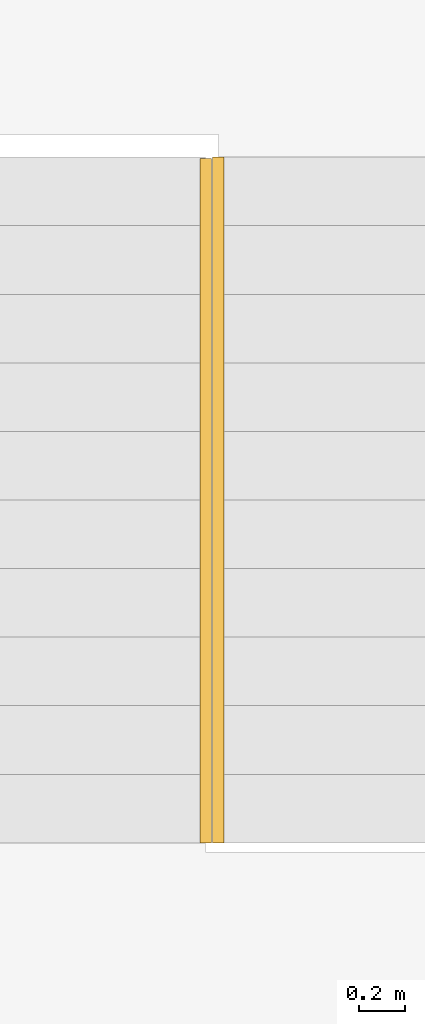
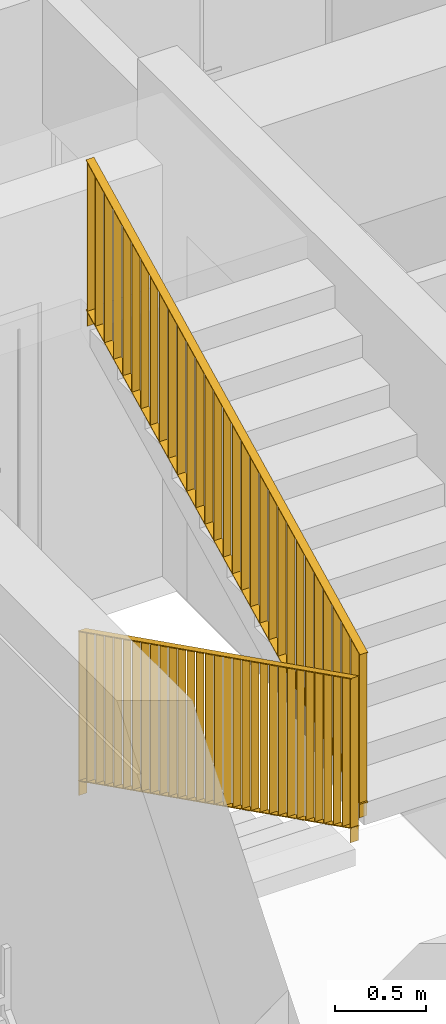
# One storey, part 19 of 48: 2 railings, 2 elements without a shape of their own.
"""IFC2X3 building model written with IfcOpenShell, lengths in millimetres."""

from ifc_helpers import new_model, entity, si_unit, converted_unit, derived_unit, direction, frame, origin, place, context, subcontext, project, spatial, polyline, outline, extrude, material, element, aggregate, save


model = new_model("IFC2X3")

# Units and contexts
model_context = context("Model", 3, precision=0.01, world=origin(), true_north=direction((6.12303176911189e-17, 1.0)))
body_context = subcontext(model_context, "Body", "Model", "MODEL_VIEW")
ifc_project = project(units=[si_unit("LENGTHUNIT", "METRE", prefix="MILLI"), si_unit("AREAUNIT", "SQUARE_METRE"), si_unit("VOLUMEUNIT", "CUBIC_METRE"), converted_unit("PLANEANGLEUNIT", "DEGREE", entity("IfcRatioMeasure", 0.0174532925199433), si_unit("PLANEANGLEUNIT", "RADIAN"), dimensions=[0, 0, 0, 0, 0, 0, 0]), si_unit("MASSUNIT", "GRAM", prefix="KILO"), derived_unit("MASSDENSITYUNIT", [(si_unit("MASSUNIT", "GRAM", prefix="KILO"), 1), (si_unit("LENGTHUNIT", "METRE"), -3)]), si_unit("TIMEUNIT", "SECOND"), si_unit("FREQUENCYUNIT", "HERTZ"), si_unit("THERMODYNAMICTEMPERATUREUNIT", "DEGREE_CELSIUS"), derived_unit("THERMALTRANSMITTANCEUNIT", [(si_unit("MASSUNIT", "GRAM", prefix="KILO"), 1), (si_unit("THERMODYNAMICTEMPERATUREUNIT", "KELVIN"), -1), (si_unit("TIMEUNIT", "SECOND"), -3)]), derived_unit("VOLUMETRICFLOWRATEUNIT", [(si_unit("LENGTHUNIT", "METRE"), 3), (si_unit("TIMEUNIT", "SECOND"), -1)]), si_unit("ELECTRICCURRENTUNIT", "AMPERE"), si_unit("ELECTRICVOLTAGEUNIT", "VOLT"), si_unit("POWERUNIT", "WATT"), si_unit("FORCEUNIT", "NEWTON", prefix="KILO"), si_unit("ILLUMINANCEUNIT", "LUX"), si_unit("LUMINOUSFLUXUNIT", "LUMEN"), si_unit("LUMINOUSINTENSITYUNIT", "CANDELA"), derived_unit("USERDEFINED", [(si_unit("MASSUNIT", "GRAM", prefix="KILO"), -1), (si_unit("LENGTHUNIT", "METRE"), -2), (si_unit("TIMEUNIT", "SECOND"), 3), (si_unit("LUMINOUSFLUXUNIT", "LUMEN"), 1)]), derived_unit("LINEARVELOCITYUNIT", [(si_unit("LENGTHUNIT", "METRE"), 1), (si_unit("TIMEUNIT", "SECOND"), -1)]), si_unit("PRESSUREUNIT", "PASCAL"), derived_unit("USERDEFINED", [(si_unit("LENGTHUNIT", "METRE"), -2), (si_unit("MASSUNIT", "GRAM", prefix="KILO"), 1), (si_unit("TIMEUNIT", "SECOND"), -2)]), derived_unit("LINEARFORCEUNIT", [(si_unit("MASSUNIT", "GRAM", prefix="KILO"), 1), (si_unit("LENGTHUNIT", "METRE"), 1), (si_unit("TIMEUNIT", "SECOND"), -2), (si_unit("LENGTHUNIT", "METRE"), -1)]), derived_unit("PLANARFORCEUNIT", [(si_unit("MASSUNIT", "GRAM", prefix="KILO"), 1), (si_unit("LENGTHUNIT", "METRE"), 1), (si_unit("TIMEUNIT", "SECOND"), -2), (si_unit("LENGTHUNIT", "METRE"), -2)])], contexts=[model_context])

# Site, building, storey
site_placement = place(None, origin())
site = spatial("IfcSite", under=ifc_project, at=site_placement, Name="Default", CompositionType="ELEMENT")
building_placement = place(site_placement, origin())
building = spatial("IfcBuilding", under=site, at=building_placement, Name="SMA ARH", CompositionType="ELEMENT")
storey_placement = place(building_placement, frame((0.0, 0.0, 3300.0)))
storey = spatial("IfcBuildingStorey", under=building, at=storey_placement, Name="2 Korrus", CompositionType="ELEMENT", Elevation=3299.99999999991)

# Stair, railing
stair_1_placement = place(storey_placement, origin())
stair_1 = element("IfcStair", 1, at=stair_1_placement, inside=storey, Name="Cast-In-Place Stair:Stair", ObjectType="Cast-In-Place Stair:Cast-In-Place Stair", ShapeType="STRAIGHT_RUN_STAIR")
ifc_material = material(Name="Metal - Stainless Steel,Polished")
railing_1_placement = place(stair_1_placement, origin())
railing_1 = element("IfcRailing", 2, at=railing_1_placement, material=ifc_material, Name="Railing:1000mm_sisearh railing offsetiga", ObjectType="Railing:1000mm_sisearh railing offsetiga", PredefinedType="NOTDEFINED", context=body_context, shape_type="SweptSolid", body=[
    extrude(outline(polyline([(-498.454915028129, -2.49999999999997), (495.95491502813, -2.49999999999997), (498.45491502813, 2.49999999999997), (-495.954915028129, 2.49999999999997), (-498.454915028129, -2.49999999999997)])), frame((32160.0, 4550.0, 657.204915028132), z_axis=(1.0, 0.0, 0.0), x_axis=(0.0, 0.0, 1.0)), (0.0, 0.0, 1.0), 49.9999999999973),
    extrude(outline(polyline([(-498.454915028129, -2.49999999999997), (495.954915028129, -2.49999999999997), (498.45491502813, 2.49999999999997), (-495.954915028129, 2.49999999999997), (-498.454915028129, -2.49999999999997)])), frame((32160.0, 4450.0, 707.204915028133), z_axis=(1.0, 0.0, 0.0), x_axis=(0.0, 0.0, 1.0)), (0.0, 0.0, 1.0), 49.9999999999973),
    extrude(outline(polyline([(-498.454915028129, -2.49999999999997), (495.954915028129, -2.49999999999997), (498.45491502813, 2.49999999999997), (-495.954915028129, 2.49999999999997), (-498.454915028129, -2.49999999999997)])), frame((32160.0, 4350.0, 757.204915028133), z_axis=(1.0, 0.0, 0.0), x_axis=(0.0, 0.0, 1.0)), (0.0, 0.0, 1.0), 49.9999999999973),
    extrude(outline(polyline([(-498.454915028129, -2.49999999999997), (495.954915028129, -2.49999999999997), (498.45491502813, 2.49999999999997), (-495.954915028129, 2.49999999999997), (-498.454915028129, -2.49999999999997)])), frame((32160.0, 4250.0, 807.204915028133), z_axis=(1.0, 0.0, 0.0), x_axis=(0.0, 0.0, 1.0)), (0.0, 0.0, 1.0), 49.9999999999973),
    extrude(outline(polyline([(-498.45491502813, -2.49999999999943), (495.954915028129, -2.49999999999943), (498.454915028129, 2.50000000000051), (-495.95491502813, 2.50000000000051), (-498.45491502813, -2.49999999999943)])), frame((32160.0, 4150.0, 857.204915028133), z_axis=(1.0, 0.0, 0.0), x_axis=(0.0, 0.0, 1.0)), (0.0, 0.0, 1.0), 49.9999999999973),
    extrude(outline(polyline([(-498.45491502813, -2.49999999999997), (495.954915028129, -2.49999999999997), (498.454915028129, 2.49999999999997), (-495.95491502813, 2.49999999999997), (-498.45491502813, -2.49999999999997)])), frame((32160.0, 4050.0, 907.204915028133), z_axis=(1.0, 0.0, 0.0), x_axis=(0.0, 0.0, 1.0)), (0.0, 0.0, 1.0), 49.9999999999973),
    extrude(outline(polyline([(-498.454915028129, -2.49999999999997), (495.954915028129, -2.49999999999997), (498.45491502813, 2.49999999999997), (-495.954915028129, 2.49999999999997), (-498.454915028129, -2.49999999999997)])), frame((32160.0, 3950.0, 957.204915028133), z_axis=(1.0, 0.0, 0.0), x_axis=(0.0, 0.0, 1.0)), (0.0, 0.0, 1.0), 49.9999999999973),
    extrude(outline(polyline([(-498.454915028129, -2.50000000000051), (495.954915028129, -2.50000000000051), (498.45491502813, 2.49999999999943), (-495.954915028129, 2.49999999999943), (-498.454915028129, -2.50000000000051)])), frame((32160.0, 3850.0, 1007.20491502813), z_axis=(1.0, 0.0, 0.0), x_axis=(0.0, 0.0, 1.0)), (0.0, 0.0, 1.0), 49.9999999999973),
    extrude(outline(polyline([(-498.454915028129, -2.49999999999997), (495.95491502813, -2.49999999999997), (498.45491502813, 2.49999999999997), (-495.954915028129, 2.49999999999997), (-498.454915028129, -2.49999999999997)])), frame((32160.0, 3750.0, 1057.20491502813), z_axis=(1.0, 0.0, 0.0), x_axis=(0.0, 0.0, 1.0)), (0.0, 0.0, 1.0), 49.9999999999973),
    extrude(outline(polyline([(-498.454915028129, -2.49999999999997), (495.954915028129, -2.49999999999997), (498.45491502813, 2.49999999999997), (-495.954915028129, 2.49999999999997), (-498.454915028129, -2.49999999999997)])), frame((32160.0, 3650.0, 1107.20491502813), z_axis=(1.0, 0.0, 0.0), x_axis=(0.0, 0.0, 1.0)), (0.0, 0.0, 1.0), 49.9999999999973),
    extrude(outline(polyline([(-498.454915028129, -2.49999999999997), (495.954915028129, -2.49999999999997), (498.45491502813, 2.49999999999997), (-495.954915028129, 2.49999999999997), (-498.454915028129, -2.49999999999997)])), frame((32160.0, 3550.0, 1157.20491502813), z_axis=(1.0, 0.0, 0.0), x_axis=(0.0, 0.0, 1.0)), (0.0, 0.0, 1.0), 49.9999999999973),
    extrude(outline(polyline([(-498.454915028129, -2.49999999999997), (495.95491502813, -2.49999999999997), (498.45491502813, 2.49999999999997), (-495.954915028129, 2.49999999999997), (-498.454915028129, -2.49999999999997)])), frame((32160.0, 3450.0, 1207.20491502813), z_axis=(1.0, 0.0, 0.0), x_axis=(0.0, 0.0, 1.0)), (0.0, 0.0, 1.0), 49.9999999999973),
    extrude(outline(polyline([(-498.45491502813, -2.49999999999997), (495.954915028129, -2.49999999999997), (498.454915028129, 2.49999999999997), (-495.95491502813, 2.49999999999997), (-498.45491502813, -2.49999999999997)])), frame((32160.0, 3350.0, 1257.20491502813), z_axis=(1.0, 0.0, 0.0), x_axis=(0.0, 0.0, 1.0)), (0.0, 0.0, 1.0), 49.9999999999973),
    extrude(outline(polyline([(-498.454915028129, -2.49999999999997), (495.954915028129, -2.49999999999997), (498.45491502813, 2.49999999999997), (-495.954915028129, 2.49999999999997), (-498.454915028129, -2.49999999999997)])), frame((32160.0, 3250.0, 1307.20491502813), z_axis=(1.0, 0.0, 0.0), x_axis=(0.0, 0.0, 1.0)), (0.0, 0.0, 1.0), 49.9999999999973),
    extrude(outline(polyline([(-498.454915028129, -2.49999999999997), (495.954915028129, -2.49999999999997), (498.45491502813, 2.49999999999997), (-495.954915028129, 2.49999999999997), (-498.454915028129, -2.49999999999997)])), frame((32160.0, 3150.0, 1357.20491502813), z_axis=(1.0, 0.0, 0.0), x_axis=(0.0, 0.0, 1.0)), (0.0, 0.0, 1.0), 49.9999999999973),
    extrude(outline(polyline([(-498.45491502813, -2.49999999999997), (495.954915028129, -2.49999999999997), (498.454915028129, 2.49999999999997), (-495.95491502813, 2.49999999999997), (-498.45491502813, -2.49999999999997)])), frame((32160.0, 3050.0, 1407.20491502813), z_axis=(1.0, 0.0, 0.0), x_axis=(0.0, 0.0, 1.0)), (0.0, 0.0, 1.0), 49.9999999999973),
    extrude(outline(polyline([(-498.454915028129, -2.49999999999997), (495.95491502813, -2.49999999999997), (498.45491502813, 2.49999999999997), (-495.954915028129, 2.49999999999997), (-498.454915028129, -2.49999999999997)])), frame((32160.0, 2950.0, 1457.20491502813), z_axis=(1.0, 0.0, 0.0), x_axis=(0.0, 0.0, 1.0)), (0.0, 0.0, 1.0), 49.9999999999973),
    extrude(outline(polyline([(-498.454915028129, -2.49999999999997), (495.954915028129, -2.49999999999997), (498.45491502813, 2.49999999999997), (-495.954915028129, 2.49999999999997), (-498.454915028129, -2.49999999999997)])), frame((32160.0, 2850.0, 1507.20491502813), z_axis=(1.0, 0.0, 0.0), x_axis=(0.0, 0.0, 1.0)), (0.0, 0.0, 1.0), 49.9999999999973),
    extrude(outline(polyline([(-498.45491502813, -2.49999999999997), (495.954915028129, -2.49999999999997), (498.45491502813, 2.49999999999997), (-495.95491502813, 2.49999999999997), (-498.45491502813, -2.49999999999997)])), frame((32160.0, 2750.0, 1557.20491502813), z_axis=(1.0, 0.0, 0.0), x_axis=(0.0, 0.0, 1.0)), (0.0, 0.0, 1.0), 49.9999999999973),
    extrude(outline(polyline([(-498.454915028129, -2.49999999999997), (495.95491502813, -2.49999999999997), (498.45491502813, 2.49999999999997), (-495.954915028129, 2.49999999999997), (-498.454915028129, -2.49999999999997)])), frame((32160.0, 2650.0, 1607.20491502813), z_axis=(1.0, 0.0, 0.0), x_axis=(0.0, 0.0, 1.0)), (0.0, 0.0, 1.0), 49.9999999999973),
    extrude(outline(polyline([(-498.454915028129, -2.49999999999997), (495.954915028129, -2.49999999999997), (498.45491502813, 2.49999999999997), (-495.954915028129, 2.49999999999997), (-498.454915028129, -2.49999999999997)])), frame((32160.0, 2550.0, 1657.20491502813), z_axis=(1.0, 0.0, 0.0), x_axis=(0.0, 0.0, 1.0)), (0.0, 0.0, 1.0), 49.9999999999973),
    extrude(outline(polyline([(-498.45491502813, -2.49999999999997), (495.954915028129, -2.49999999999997), (498.454915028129, 2.49999999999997), (-495.95491502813, 2.49999999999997), (-498.45491502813, -2.49999999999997)])), frame((32160.0, 2450.0, 1707.20491502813), z_axis=(1.0, 0.0, 0.0), x_axis=(0.0, 0.0, 1.0)), (0.0, 0.0, 1.0), 49.9999999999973),
    extrude(outline(polyline([(-498.454915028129, -2.50000000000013), (495.95491502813, -2.50000000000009), (498.45491502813, 2.50000000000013), (-495.954915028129, 2.49999999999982), (-498.454915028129, -2.50000000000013)])), frame((32160.0, 2350.0, 1757.20491502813), z_axis=(1.0, 0.0, 0.0), x_axis=(0.0, 0.0, 1.0)), (0.0, 0.0, 1.0), 49.9999999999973),
    extrude(outline(polyline([(-498.45491502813, -2.50000000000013), (495.954915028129, -2.50000000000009), (498.454915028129, 2.50000000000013), (-495.95491502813, 2.49999999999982), (-498.45491502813, -2.50000000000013)])), frame((32160.0, 2250.0, 1807.20491502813), z_axis=(1.0, 0.0, 0.0), x_axis=(0.0, 0.0, 1.0)), (0.0, 0.0, 1.0), 49.9999999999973),
    extrude(outline(polyline([(-498.454915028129, -2.50000000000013), (495.954915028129, -2.50000000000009), (498.45491502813, 2.50000000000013), (-495.954915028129, 2.49999999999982), (-498.454915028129, -2.50000000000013)])), frame((32160.0, 2150.0, 1857.20491502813), z_axis=(1.0, 0.0, 0.0), x_axis=(0.0, 0.0, 1.0)), (0.0, 0.0, 1.0), 49.9999999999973),
    extrude(outline(polyline([(-498.45491502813, -2.50000000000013), (495.954915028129, -2.50000000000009), (498.454915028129, 2.50000000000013), (-495.95491502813, 2.49999999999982), (-498.45491502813, -2.50000000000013)])), frame((32160.0, 2050.0, 1907.20491502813), z_axis=(1.0, 0.0, 0.0), x_axis=(0.0, 0.0, 1.0)), (0.0, 0.0, 1.0), 49.9999999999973),
    extrude(outline(polyline([(-498.45491502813, -2.50000000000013), (495.954915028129, -2.50000000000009), (498.454915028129, 2.50000000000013), (-495.95491502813, 2.49999999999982), (-498.45491502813, -2.50000000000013)])), frame((32160.0, 1950.0, 1957.20491502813), z_axis=(1.0, 0.0, 0.0), x_axis=(0.0, 0.0, 1.0)), (0.0, 0.0, 1.0), 49.9999999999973),
    extrude(outline(polyline([(-498.454915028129, -2.50000000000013), (495.95491502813, -2.50000000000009), (498.45491502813, 2.50000000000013), (-495.954915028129, 2.49999999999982), (-498.454915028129, -2.50000000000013)])), frame((32160.0, 1850.0, 2007.20491502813), z_axis=(1.0, 0.0, 0.0), x_axis=(0.0, 0.0, 1.0)), (0.0, 0.0, 1.0), 49.9999999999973),
    extrude(outline(polyline([(-498.454915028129, -2.50000000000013), (495.954915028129, -2.50000000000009), (498.45491502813, 2.50000000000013), (-495.954915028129, 2.49999999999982), (-498.454915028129, -2.50000000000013)])), frame((32160.0, 1750.0, 2057.20491502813), z_axis=(1.0, 0.0, 0.0), x_axis=(0.0, 0.0, 1.0)), (0.0, 0.0, 1.0), 49.9999999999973),
    extrude(outline(polyline([(-548.45491502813, -2.49999999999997), (545.954915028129, -2.49999999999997), (548.45491502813, 2.49999999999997), (-545.95491502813, 2.49999999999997), (-548.45491502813, -2.49999999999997)])), frame((32160.0, 4635.0, 564.704915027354), z_axis=(1.0, 0.0, 0.0), x_axis=(0.0, 0.0, 1.0)), (0.0, 0.0, 1.0), 49.9999999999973),
    extrude(outline(polyline([(-548.454915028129, -2.49999999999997), (545.95491502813, -2.49999999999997), (548.454915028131, 2.49999999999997), (-545.954915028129, 2.49999999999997), (-548.454915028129, -2.49999999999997)])), frame((32160.0, 1660.0, 2052.20491502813), z_axis=(1.0, 0.0, 0.0), x_axis=(0.0, 0.0, 1.0)), (0.0, 0.0, 1.0), 49.9999999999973),
    extrude(outline(polyline([(-1673.00589815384, -2.49999999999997), (1675.50589815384, -2.49999999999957), (1673.00589815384, 2.49999999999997), (-1675.50589815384, 2.49999999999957), (-1673.00589815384, -2.49999999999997)])), frame((32160.4401690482, 3147.50000000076, 858.454915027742), z_axis=(1.0, 0.0, 0.0), x_axis=(0.0, 0.894427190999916, -0.447213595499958)), (0.0, 0.0, 1.0), 49.9999999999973),
    extrude(outline(polyline([(-1673.00589815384, -2.50000000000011), (1675.50589815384, -2.49999999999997), (1673.00589815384, 2.49999999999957), (-1675.50589815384, 2.49999999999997), (-1673.00589815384, -2.50000000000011)])), frame((32160.4401690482, 3147.50000000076, 1858.45491502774), z_axis=(1.0, 0.0, 0.0), x_axis=(0.0, -0.894427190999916, 0.447213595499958)), (0.0, 0.0, 1.0), 50.0000000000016),
])
aggregate(stair_1, [railing_1])

stair_2_placement = place(storey_placement, origin())
stair_2 = element("IfcStair", 3, at=stair_2_placement, inside=storey, Name="Cast-In-Place Stair:Stair", ObjectType="Cast-In-Place Stair:Cast-In-Place Stair", ShapeType="STRAIGHT_RUN_STAIR")
railing_2_placement = place(stair_2_placement, origin())
railing_2 = element("IfcRailing", 4, at=railing_2_placement, material=ifc_material, Name="Railing:1000mm_sisearh railing offsetiga", ObjectType="Railing:1000mm_sisearh railing offsetiga", PredefinedType="NOTDEFINED", context=body_context, shape_type="SweptSolid", body=[
    extrude(outline(polyline([(-220.800612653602, -446.871134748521), (-215.237282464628, -446.871134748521), (220.800612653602, 446.871134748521), (215.237282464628, 446.871134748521), (-220.800612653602, -446.871134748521)])), frame((32215.0, 1750.10845986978, 2296.06011496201), z_axis=(1.0, 0.0, 0.0), x_axis=(0.0, 0.898742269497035, 0.43847728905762)), (0.0, 0.0, 1.0), 49.9999999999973),
    extrude(outline(polyline([(-220.800612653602, -446.871134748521), (-215.237282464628, -446.871134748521), (220.800612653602, 446.871134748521), (215.237282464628, 446.871134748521), (-220.800612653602, -446.871134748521)])), frame((32215.0, 1850.10845986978, 2345.75708465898), z_axis=(1.0, 0.0, 0.0), x_axis=(0.0, 0.898742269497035, 0.43847728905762)), (0.0, 0.0, 1.0), 49.9999999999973),
    extrude(outline(polyline([(-220.800612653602, -446.871134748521), (-215.237282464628, -446.871134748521), (220.800612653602, 446.871134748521), (215.237282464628, 446.871134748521), (-220.800612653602, -446.871134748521)])), frame((32215.0, 1950.10845986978, 2395.45405435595), z_axis=(1.0, 0.0, 0.0), x_axis=(0.0, 0.898742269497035, 0.43847728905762)), (0.0, 0.0, 1.0), 49.9999999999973),
    extrude(outline(polyline([(-220.800612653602, -446.871134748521), (-215.237282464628, -446.871134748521), (220.800612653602, 446.871134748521), (215.237282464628, 446.871134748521), (-220.800612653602, -446.871134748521)])), frame((32215.0, 2050.10845986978, 2445.15102405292), z_axis=(1.0, 0.0, 0.0), x_axis=(0.0, 0.898742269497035, 0.43847728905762)), (0.0, 0.0, 1.0), 49.9999999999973),
    extrude(outline(polyline([(-220.800612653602, -446.871134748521), (-215.237282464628, -446.871134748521), (220.800612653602, 446.871134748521), (215.237282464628, 446.871134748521), (-220.800612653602, -446.871134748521)])), frame((32215.0, 2150.10845986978, 2494.84799374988), z_axis=(1.0, 0.0, 0.0), x_axis=(0.0, 0.898742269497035, 0.43847728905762)), (0.0, 0.0, 1.0), 49.9999999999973),
    extrude(outline(polyline([(-220.800612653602, -446.871134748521), (-215.237282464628, -446.871134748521), (220.800612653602, 446.871134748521), (215.237282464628, 446.871134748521), (-220.800612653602, -446.871134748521)])), frame((32215.0, 2250.10845986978, 2544.54496344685), z_axis=(1.0, 0.0, 0.0), x_axis=(0.0, 0.898742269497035, 0.43847728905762)), (0.0, 0.0, 1.0), 49.9999999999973),
    extrude(outline(polyline([(-220.800612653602, -446.871134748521), (-215.237282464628, -446.871134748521), (220.800612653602, 446.871134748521), (215.237282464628, 446.871134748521), (-220.800612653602, -446.871134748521)])), frame((32215.0, 2350.10845986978, 2594.24193314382), z_axis=(1.0, 0.0, 0.0), x_axis=(0.0, 0.898742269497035, 0.43847728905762)), (0.0, 0.0, 1.0), 49.9999999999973),
    extrude(outline(polyline([(-220.800612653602, -446.871134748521), (-215.237282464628, -446.871134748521), (220.800612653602, 446.871134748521), (215.237282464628, 446.871134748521), (-220.800612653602, -446.871134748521)])), frame((32215.0, 2450.10845986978, 2643.93890284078), z_axis=(1.0, 0.0, 0.0), x_axis=(0.0, 0.898742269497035, 0.43847728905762)), (0.0, 0.0, 1.0), 49.9999999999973),
    extrude(outline(polyline([(-220.800612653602, -446.871134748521), (-215.237282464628, -446.871134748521), (220.800612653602, 446.871134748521), (215.237282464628, 446.871134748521), (-220.800612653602, -446.871134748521)])), frame((32215.0, 2550.10845986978, 2693.63587253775), z_axis=(1.0, 0.0, 0.0), x_axis=(0.0, 0.898742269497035, 0.43847728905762)), (0.0, 0.0, 1.0), 49.9999999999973),
    extrude(outline(polyline([(-220.800612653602, -446.871134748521), (-215.237282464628, -446.871134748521), (220.800612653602, 446.871134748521), (215.237282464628, 446.871134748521), (-220.800612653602, -446.871134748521)])), frame((32215.0, 2650.10845986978, 2743.33284223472), z_axis=(1.0, 0.0, 0.0), x_axis=(0.0, 0.898742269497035, 0.43847728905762)), (0.0, 0.0, 1.0), 49.9999999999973),
    extrude(outline(polyline([(-220.800612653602, -446.871134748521), (-215.237282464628, -446.871134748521), (220.800612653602, 446.871134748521), (215.237282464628, 446.871134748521), (-220.800612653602, -446.871134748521)])), frame((32215.0, 2750.10845986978, 2793.02981193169), z_axis=(1.0, 0.0, 0.0), x_axis=(0.0, 0.898742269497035, 0.43847728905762)), (0.0, 0.0, 1.0), 49.9999999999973),
    extrude(outline(polyline([(-220.800612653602, -446.871134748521), (-215.237282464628, -446.871134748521), (220.800612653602, 446.871134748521), (215.237282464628, 446.871134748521), (-220.800612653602, -446.871134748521)])), frame((32215.0, 2850.10845986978, 2842.72678162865), z_axis=(1.0, 0.0, 0.0), x_axis=(0.0, 0.898742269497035, 0.43847728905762)), (0.0, 0.0, 1.0), 49.9999999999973),
    extrude(outline(polyline([(-220.800612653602, -446.871134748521), (-215.237282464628, -446.871134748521), (220.800612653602, 446.871134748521), (215.237282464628, 446.871134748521), (-220.800612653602, -446.871134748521)])), frame((32215.0, 2950.10845986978, 2892.42375132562), z_axis=(1.0, 0.0, 0.0), x_axis=(0.0, 0.898742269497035, 0.43847728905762)), (0.0, 0.0, 1.0), 49.9999999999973),
    extrude(outline(polyline([(-220.800612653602, -446.871134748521), (-215.237282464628, -446.871134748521), (220.800612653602, 446.871134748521), (215.237282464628, 446.871134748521), (-220.800612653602, -446.871134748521)])), frame((32215.0, 3050.10845986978, 2942.12072102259), z_axis=(1.0, 0.0, 0.0), x_axis=(0.0, 0.898742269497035, 0.43847728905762)), (0.0, 0.0, 1.0), 49.9999999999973),
    extrude(outline(polyline([(-220.800612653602, -446.871134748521), (-215.237282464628, -446.871134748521), (220.800612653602, 446.871134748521), (215.237282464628, 446.871134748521), (-220.800612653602, -446.871134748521)])), frame((32215.0, 3150.10845986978, 2991.81769071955), z_axis=(1.0, 0.0, 0.0), x_axis=(0.0, 0.898742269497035, 0.43847728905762)), (0.0, 0.0, 1.0), 49.9999999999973),
    extrude(outline(polyline([(-220.800612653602, -446.871134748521), (-215.237282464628, -446.871134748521), (220.800612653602, 446.871134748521), (215.237282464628, 446.871134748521), (-220.800612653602, -446.871134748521)])), frame((32215.0, 3250.10845986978, 3041.51466041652), z_axis=(1.0, 0.0, 0.0), x_axis=(0.0, 0.898742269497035, 0.43847728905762)), (0.0, 0.0, 1.0), 49.9999999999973),
    extrude(outline(polyline([(-220.800612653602, -446.871134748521), (-215.237282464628, -446.871134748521), (220.800612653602, 446.871134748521), (215.237282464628, 446.871134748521), (-220.800612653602, -446.871134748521)])), frame((32215.0, 3350.10845986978, 3091.21163011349), z_axis=(1.0, 0.0, 0.0), x_axis=(0.0, 0.898742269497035, 0.43847728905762)), (0.0, 0.0, 1.0), 49.9999999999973),
    extrude(outline(polyline([(-220.800612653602, -446.871134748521), (-215.237282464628, -446.871134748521), (220.800612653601, 446.871134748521), (215.237282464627, 446.871134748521), (-220.800612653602, -446.871134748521)])), frame((32215.0, 3450.10845986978, 3140.90859981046), z_axis=(1.0, 0.0, 0.0), x_axis=(0.0, 0.898742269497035, 0.43847728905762)), (0.0, 0.0, 1.0), 49.9999999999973),
    extrude(outline(polyline([(-220.800612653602, -446.871134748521), (-215.237282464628, -446.871134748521), (220.800612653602, 446.871134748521), (215.237282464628, 446.871134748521), (-220.800612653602, -446.871134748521)])), frame((32215.0, 3550.10845986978, 3190.60556950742), z_axis=(1.0, 0.0, 0.0), x_axis=(0.0, 0.898742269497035, 0.43847728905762)), (0.0, 0.0, 1.0), 49.9999999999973),
    extrude(outline(polyline([(-220.800612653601, -446.871134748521), (-215.237282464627, -446.871134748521), (220.800612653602, 446.871134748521), (215.237282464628, 446.871134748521), (-220.800612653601, -446.871134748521)])), frame((32215.0, 3650.10845986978, 3240.30253920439), z_axis=(1.0, 0.0, 0.0), x_axis=(0.0, 0.898742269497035, 0.43847728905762)), (0.0, 0.0, 1.0), 49.9999999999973),
    extrude(outline(polyline([(-220.800612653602, -446.871134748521), (-215.237282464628, -446.871134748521), (220.800612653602, 446.871134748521), (215.237282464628, 446.871134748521), (-220.800612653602, -446.871134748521)])), frame((32215.0, 3750.10845986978, 3289.99950890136), z_axis=(1.0, 0.0, 0.0), x_axis=(0.0, 0.898742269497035, 0.43847728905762)), (0.0, 0.0, 1.0), 49.9999999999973),
    extrude(outline(polyline([(-220.800612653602, -446.871134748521), (-215.237282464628, -446.871134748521), (220.800612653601, 446.871134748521), (215.237282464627, 446.871134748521), (-220.800612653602, -446.871134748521)])), frame((32215.0, 3850.10845986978, 3339.69647859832), z_axis=(1.0, 0.0, 0.0), x_axis=(0.0, 0.898742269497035, 0.43847728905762)), (0.0, 0.0, 1.0), 49.9999999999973),
    extrude(outline(polyline([(-220.800612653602, -446.871134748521), (-215.237282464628, -446.871134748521), (220.800612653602, 446.871134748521), (215.237282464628, 446.871134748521), (-220.800612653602, -446.871134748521)])), frame((32215.0, 3950.10845986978, 3389.39344829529), z_axis=(1.0, 0.0, 0.0), x_axis=(0.0, 0.898742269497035, 0.43847728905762)), (0.0, 0.0, 1.0), 49.9999999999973),
    extrude(outline(polyline([(-220.800612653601, -446.871134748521), (-215.237282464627, -446.871134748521), (220.800612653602, 446.871134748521), (215.237282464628, 446.871134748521), (-220.800612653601, -446.871134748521)])), frame((32215.0, 4050.10845986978, 3439.09041799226), z_axis=(1.0, 0.0, 0.0), x_axis=(0.0, 0.898742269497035, 0.43847728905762)), (0.0, 0.0, 1.0), 49.9999999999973),
    extrude(outline(polyline([(-220.800612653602, -446.871134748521), (-215.237282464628, -446.871134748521), (220.800612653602, 446.871134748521), (215.237282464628, 446.871134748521), (-220.800612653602, -446.871134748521)])), frame((32215.0, 4150.10845986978, 3488.78738768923), z_axis=(1.0, 0.0, 0.0), x_axis=(0.0, 0.898742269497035, 0.43847728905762)), (0.0, 0.0, 1.0), 49.9999999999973),
    extrude(outline(polyline([(-220.800612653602, -446.871134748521), (-215.237282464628, -446.871134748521), (220.800612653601, 446.871134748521), (215.237282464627, 446.871134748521), (-220.800612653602, -446.871134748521)])), frame((32215.0, 4250.10845986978, 3538.48435738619), z_axis=(1.0, 0.0, 0.0), x_axis=(0.0, 0.898742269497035, 0.43847728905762)), (0.0, 0.0, 1.0), 49.9999999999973),
    extrude(outline(polyline([(-220.800612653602, -446.871134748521), (-215.237282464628, -446.871134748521), (220.800612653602, 446.871134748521), (215.237282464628, 446.871134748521), (-220.800612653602, -446.871134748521)])), frame((32215.0, 4350.10845986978, 3588.18132708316), z_axis=(1.0, 0.0, 0.0), x_axis=(0.0, 0.898742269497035, 0.43847728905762)), (0.0, 0.0, 1.0), 49.9999999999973),
    extrude(outline(polyline([(-220.800612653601, -446.871134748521), (-215.237282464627, -446.871134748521), (220.800612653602, 446.871134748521), (215.237282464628, 446.871134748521), (-220.800612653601, -446.871134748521)])), frame((32215.0, 4450.10845986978, 3637.87829678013), z_axis=(1.0, 0.0, 0.0), x_axis=(0.0, 0.898742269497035, 0.43847728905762)), (0.0, 0.0, 1.0), 49.9999999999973),
    extrude(outline(polyline([(-220.800612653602, -446.871134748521), (-215.237282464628, -446.871134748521), (220.800612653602, 446.871134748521), (215.237282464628, 446.871134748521), (-220.800612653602, -446.871134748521)])), frame((32215.0, 4550.10845986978, 3687.57526647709), z_axis=(1.0, 0.0, 0.0), x_axis=(0.0, 0.898742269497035, 0.43847728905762)), (0.0, 0.0, 1.0), 49.9999999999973),
    extrude(outline(polyline([(-242.724477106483, -491.808248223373), (-237.161146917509, -491.808248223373), (242.724477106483, 491.808248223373), (237.161146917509, 491.808248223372), (-242.724477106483, -491.808248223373)])), frame((32215.0, 1660.10845986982, 2201.33284223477), z_axis=(1.0, 0.0, 0.0), x_axis=(0.0, 0.898742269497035, 0.43847728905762)), (0.0, 0.0, 1.0), 49.9999999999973),
    extrude(outline(polyline([(-242.724477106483, -491.808248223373), (-237.161146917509, -491.808248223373), (242.724477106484, 491.808248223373), (237.161146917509, 491.808248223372), (-242.724477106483, -491.808248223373)])), frame((32215.0, 4640.10845986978, 3682.30253920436), z_axis=(1.0, 0.0, 0.0), x_axis=(0.0, 0.898742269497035, 0.43847728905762)), (0.0, 0.0, 1.0), 49.9999999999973),
    extrude(outline(polyline([(-1676.26555224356, -2.50000000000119), (1673.78070375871, -2.50000000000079), (1676.26555224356, 2.4999999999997), (-1673.78070375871, 2.49999999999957), (-1676.26555224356, -2.50000000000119)])), frame((32214.5598309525, 3150.10845986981, 2491.80765060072), z_axis=(1.0, 0.0, 0.0), x_axis=(0.0, -0.895510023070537, -0.445041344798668)), (0.0, 0.0, 1.0), 50.0000000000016),
    extrude(outline(polyline([(-1676.26555224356, -2.49999999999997), (1673.78070375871, -2.49999999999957), (1676.26555224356, 2.50000000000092), (-1673.78070375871, 2.50000000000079), (-1676.26555224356, -2.49999999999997)])), frame((32214.5598309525, 3150.10845986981, 3491.80765060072), z_axis=(1.0, 0.0, 0.0), x_axis=(0.0, 0.895510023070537, 0.445041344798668)), (0.0, 0.0, 1.0), 50.0000000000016),
])
aggregate(stair_2, [railing_2])

save(model, "model.ifc")
